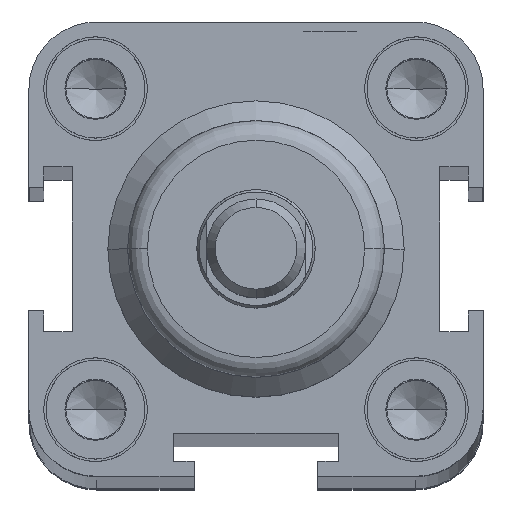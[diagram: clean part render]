
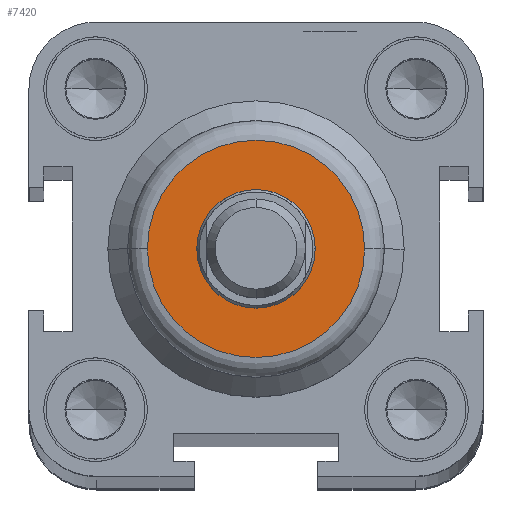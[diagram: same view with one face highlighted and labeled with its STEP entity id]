
A CAD part, top view. The second image highlights one B-rep face of the part: STEP entity #7420.
In plain terms, the highlighted planar face has unit normal (0, 0, 1).
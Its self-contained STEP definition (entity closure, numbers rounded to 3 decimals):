
#1472=CARTESIAN_POINT('',(-11.,0.0,413.));
#1473=VERTEX_POINT('',#1472);
#1481=CARTESIAN_POINT('',(11.,0.,413.));
#1482=VERTEX_POINT('',#1481);
#1483=CARTESIAN_POINT('',(0.0,0.0,413.));
#1484=DIRECTION('',(0.0,0.0,-1.0));
#1485=DIRECTION('',(-1.0,0.0,0.0));
#1486=AXIS2_PLACEMENT_3D('',#1483,#1484,#1485);
#1487=CIRCLE('',#1486,11.);
#1488=EDGE_CURVE('',#1473,#1482,#1487,.T.);
#1593=CARTESIAN_POINT('',(6.,0.0,413.));
#1594=VERTEX_POINT('',#1593);
#1610=CARTESIAN_POINT('',(-6.,0.,413.));
#1611=VERTEX_POINT('',#1610);
#1618=CARTESIAN_POINT('',(0.0,0.0,413.));
#1619=DIRECTION('',(0.0,0.0,-1.0));
#1620=DIRECTION('',(1.0,0.0,0.0));
#1621=AXIS2_PLACEMENT_3D('',#1618,#1619,#1620);
#1622=CIRCLE('',#1621,6.);
#1623=EDGE_CURVE('',#1594,#1611,#1622,.T.);
#7347=CARTESIAN_POINT('',(0.0,0.0,413.));
#7348=DIRECTION('',(0.0,0.0,-1.0));
#7349=DIRECTION('',(1.0,0.0,0.0));
#7350=AXIS2_PLACEMENT_3D('',#7347,#7348,#7349);
#7351=CIRCLE('',#7350,6.);
#7352=EDGE_CURVE('',#1611,#1594,#7351,.T.);
#7401=CARTESIAN_POINT('',(-5.5,0.0,413.));
#7402=DIRECTION('',(0.0,0.0,1.0));
#7403=DIRECTION('',(1.0,0.0,0.0));
#7404=AXIS2_PLACEMENT_3D('',#7401,#7402,#7403);
#7405=PLANE('',#7404);
#7406=ORIENTED_EDGE('',*,*,#1488,.F.);
#7407=CARTESIAN_POINT('',(0.0,0.0,413.));
#7408=DIRECTION('',(0.0,0.0,-1.0));
#7409=DIRECTION('',(-1.0,0.0,0.0));
#7410=AXIS2_PLACEMENT_3D('',#7407,#7408,#7409);
#7411=CIRCLE('',#7410,11.);
#7412=EDGE_CURVE('',#1482,#1473,#7411,.T.);
#7413=ORIENTED_EDGE('',*,*,#7412,.F.);
#7414=EDGE_LOOP('',(#7406,#7413));
#7415=FACE_OUTER_BOUND('',#7414,.T.);
#7416=ORIENTED_EDGE('',*,*,#1623,.T.);
#7417=ORIENTED_EDGE('',*,*,#7352,.T.);
#7418=EDGE_LOOP('',(#7416,#7417));
#7419=FACE_BOUND('',#7418,.T.);
#7420=ADVANCED_FACE('',(#7415,#7419),#7405,.T.);
